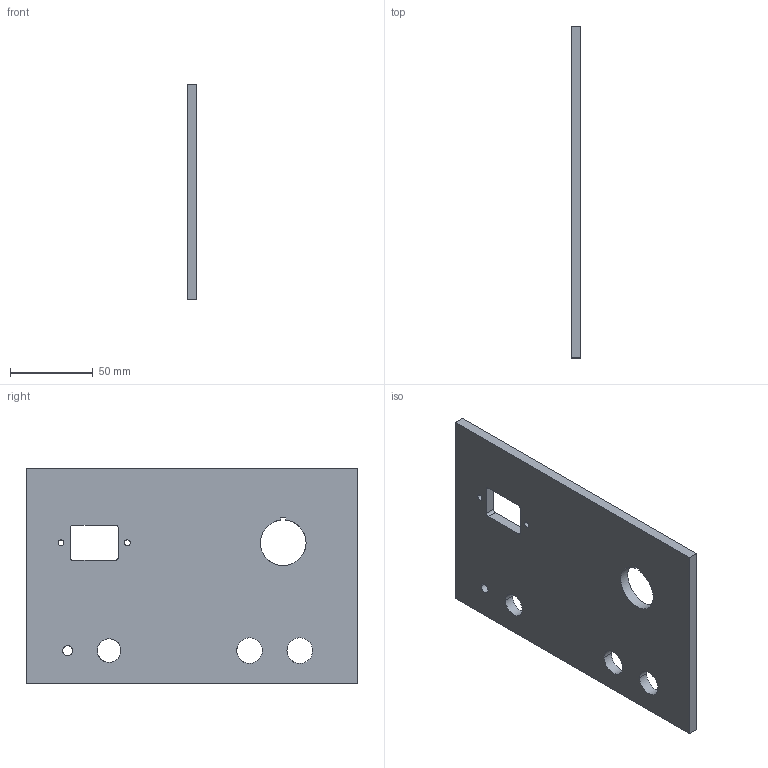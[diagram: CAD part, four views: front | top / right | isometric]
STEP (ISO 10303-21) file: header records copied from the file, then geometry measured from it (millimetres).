
FILE_DESCRIPTION(/* description */ (''),/* implementation_level */ '2;1');
FILE_NAME(/* name */ 'FRD90B~1',/* time_stamp */ '2014-02-14T19:32:34+01:00',/* author */ (''),/* organization */ (''),/* preprocessor_version */ 'ST-DEVELOPER v14',/* originating_system */ '',/* authorisation */ '');
FILE_SCHEMA (('AUTOMOTIVE_DESIGN'));
Length unit declared in the file: millimetre
Products named in the file (1): Document
Bounding box: 6 x 200 x 130 mm (x, y, z)
Volume: 145265.5 mm3; surface area: 54589.7 mm2
Topology: 1 solids, 1 shells, 30 faces, 84 edges, 56 vertices
Faces by surface type: bspline 21, plane 9
Entity records: 2096 total; most frequent: CARTESIAN_POINT 1057, ORIENTED_EDGE 168, PCURVE 168, DEFINITIONAL_REPRESENTATION 168, B_SPLINE_CURVE_WITH_KNOTS 128, SURFACE_CURVE 84, EDGE_CURVE 84, VERTEX_POINT 56
